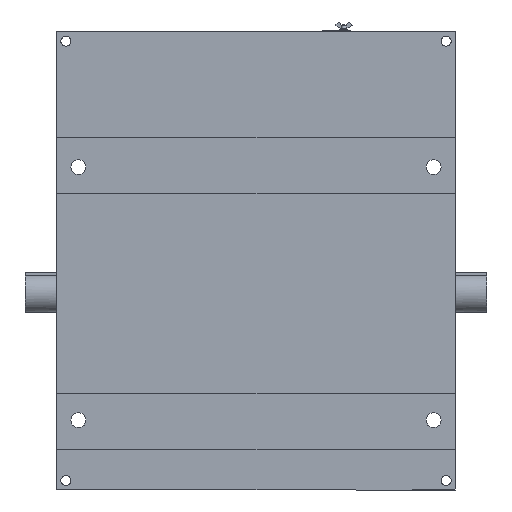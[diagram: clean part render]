
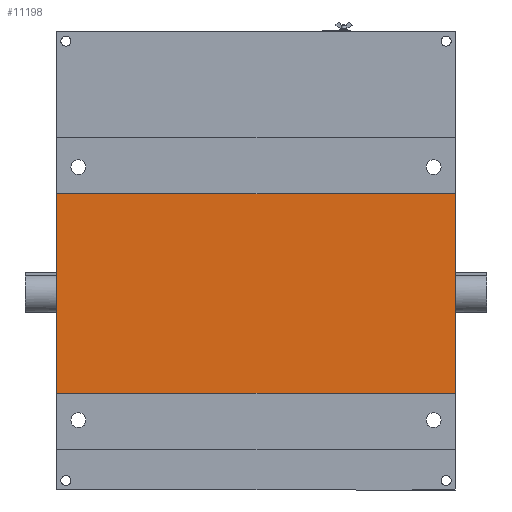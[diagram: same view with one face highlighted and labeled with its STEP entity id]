
A CAD part, front view. The second image highlights one B-rep face of the part: STEP entity #11198.
In plain terms, the highlighted planar face has unit normal (0, -1, 0).
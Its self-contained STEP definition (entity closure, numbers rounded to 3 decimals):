
#965 = VECTOR ( 'NONE', #6887, 1000. ) ;
#2430 = DIRECTION ( 'NONE',  ( 1., 0., 0. ) ) ;
#2560 = CARTESIAN_POINT ( 'NONE',  ( 690., -298., -160. ) ) ;
#2901 = EDGE_LOOP ( 'NONE', ( #16956, #11324, #31203, #26773 ) ) ;
#3560 = VECTOR ( 'NONE', #27519, 1000. ) ;
#4465 = VERTEX_POINT ( 'NONE', #24087 ) ;
#5033 = FACE_OUTER_BOUND ( 'NONE', #2901, .T. ) ;
#5471 = CARTESIAN_POINT ( 'NONE',  ( 690., -298., -160. ) ) ;
#6887 = DIRECTION ( 'NONE',  ( 1., 0., 0. ) ) ;
#7105 = CARTESIAN_POINT ( 'NONE',  ( 690., -298., 420. ) ) ;
#7434 = DIRECTION ( 'NONE',  ( 0., 0., -1. ) ) ;
#9728 = AXIS2_PLACEMENT_3D ( 'NONE', #12219, #30588, #2430 ) ;
#11198 = ADVANCED_FACE ( 'NONE', ( #5033 ), #17110, .F. ) ;
#11324 = ORIENTED_EDGE ( 'NONE', *, *, #24517, .F. ) ;
#12197 = CARTESIAN_POINT ( 'NONE',  ( 50., -298., 420. ) ) ;
#12219 = CARTESIAN_POINT ( 'NONE',  ( 690., -298., 420. ) ) ;
#13204 = CARTESIAN_POINT ( 'NONE',  ( 50., -298., 160. ) ) ;
#13395 = LINE ( 'NONE', #23362, #965 ) ;
#13644 = VERTEX_POINT ( 'NONE', #30751 ) ;
#16177 = EDGE_CURVE ( 'NONE', #19875, #13644, #27026, .T. ) ;
#16956 = ORIENTED_EDGE ( 'NONE', *, *, #16177, .F. ) ;
#17110 = PLANE ( 'NONE',  #9728 ) ;
#17253 = LINE ( 'NONE', #12197, #3560 ) ;
#18081 = EDGE_CURVE ( 'NONE', #13644, #30080, #17253, .T. ) ;
#18693 = EDGE_CURVE ( 'NONE', #30080, #4465, #13395, .T. ) ;
#19875 = VERTEX_POINT ( 'NONE', #5471 ) ;
#21982 = DIRECTION ( 'NONE',  ( -1., 0., 0. ) ) ;
#22437 = LINE ( 'NONE', #7105, #28799 ) ;
#23362 = CARTESIAN_POINT ( 'NONE',  ( 690., -298., 160. ) ) ;
#23897 = VECTOR ( 'NONE', #21982, 1000. ) ;
#24087 = CARTESIAN_POINT ( 'NONE',  ( 690., -298., 160. ) ) ;
#24517 = EDGE_CURVE ( 'NONE', #4465, #19875, #22437, .T. ) ;
#26773 = ORIENTED_EDGE ( 'NONE', *, *, #18081, .F. ) ;
#27026 = LINE ( 'NONE', #2560, #23897 ) ;
#27519 = DIRECTION ( 'NONE',  ( 0., 0., 1. ) ) ;
#28799 = VECTOR ( 'NONE', #7434, 1000. ) ;
#30080 = VERTEX_POINT ( 'NONE', #13204 ) ;
#30588 = DIRECTION ( 'NONE',  ( 0., 1., 0. ) ) ;
#30751 = CARTESIAN_POINT ( 'NONE',  ( 50., -298., -160. ) ) ;
#31203 = ORIENTED_EDGE ( 'NONE', *, *, #18693, .F. ) ;
